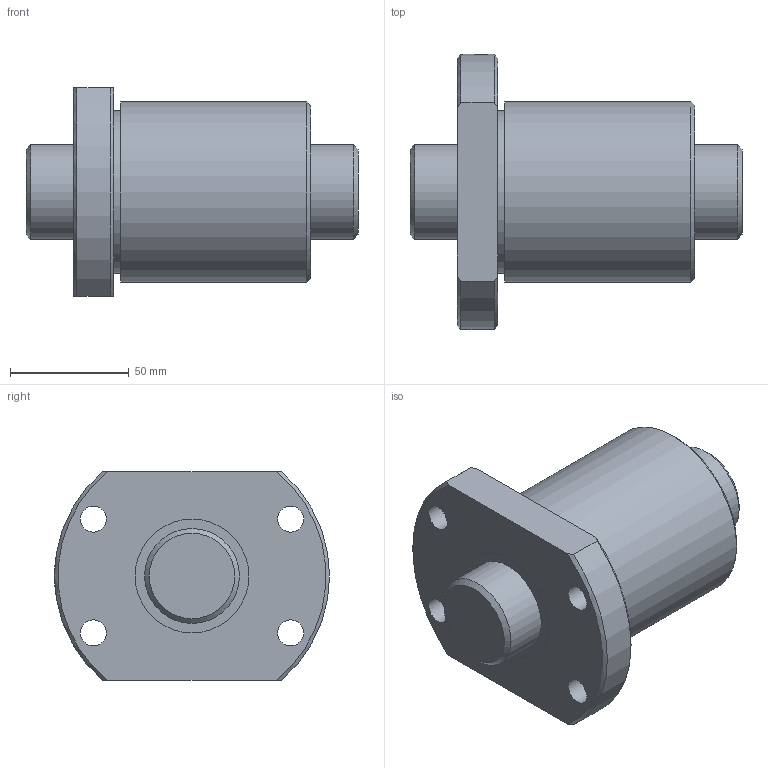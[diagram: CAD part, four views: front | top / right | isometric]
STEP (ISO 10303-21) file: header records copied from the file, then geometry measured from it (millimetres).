
FILE_DESCRIPTION(/* description */ ('STEP AP203'),/* implementation_level */ '2;1');
FILE_NAME(/* name */ 'BTK4010V-5.3ZZ+140LC7T_000',/* time_stamp */ '2025-01-15T03:11:31+01:00',/* author */ ('License CC BY-ND 4.0'),/* organization */ ('CADENAS'),/* preprocessor_version */ 'ST-DEVELOPER v19.3',/* originating_system */ 'PARTsolutions',/* authorisation */ ' ');
FILE_SCHEMA (('CONFIG_CONTROL_DESIGN'));
Length unit declared in the file: millimetre
Products named in the file (3): BTK4010V-5.3ZZ+140LC7T_000; BTK 4010V-5.300 Shaft; BTK 4010V-5.3ZZ Nut
Assembly tree (2 placements, depth 2):
  BTK4010V-5.3ZZ+140LC7T_000
    BTK 4010V-5.300 Shaft
    BTK 4010V-5.3ZZ Nut
Bounding box: 140 x 116 x 88 mm (x, y, z)
Volume: 570816.9 mm3; surface area: 77099.6 mm2
Topology: 2 solids, 2 shells, 31 faces, 66 edges, 43 vertices
Faces by surface type: cylinder 13, plane 10, cone 8
Full cylindrical faces by diameter (mm): 4.917 x1, 11 x4, 40 x2, 48 x2, 68.4 x1, 76 x1
Entity records: 887 total; most frequent: CARTESIAN_POINT 170, DIRECTION 140, ORIENTED_EDGE 100, AXIS2_PLACEMENT_3D 66, EDGE_LOOP 62, FACE_BOUND 62, EDGE_CURVE 50, VERTEX_POINT 42
